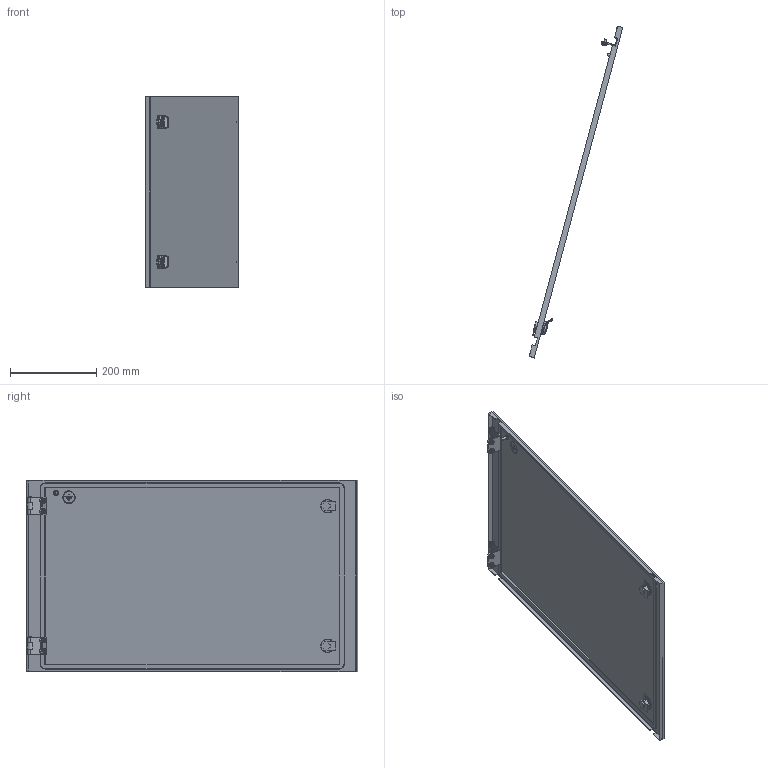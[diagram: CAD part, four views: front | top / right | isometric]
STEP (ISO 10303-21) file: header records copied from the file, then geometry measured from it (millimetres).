
FILE_DESCRIPTION (( 'STEP AP214' ), '1' );
FILE_NAME ('FO-00-ESD-045-080 Äâåðü ñåêöèîííàÿ âíåøíÿÿ 450õ800 ìì.STEP', '2025-08-20T06:31:01', ( '' ), ( '' ), 'SwSTEP 2.0', 'SolidWorks 2023', '' );
FILE_SCHEMA (( 'AUTOMOTIVE_DESIGN' ));
Length unit declared in the file: millimetre
Products named in the file (4): FO-00-ESD-045-080 Дверь секционная внешняя 450х800 мм; Дверь секционная внешняя 450х800 мм.STEP; FO-00-ESD-045-080 Дверь секционная внешняя 450х800 мм.STEP; Петля_10.STEP
Assembly tree (4 placements, depth 3):
  FO-00-ESD-045-080 Дверь секционная внешняя 450х800 мм
    FO-00-ESD-045-080 Дверь секционная внешняя 450х800 мм.STEP
      Дверь секционная внешняя 450х800 мм.STEP
      Петля_10.STEP  x2
Bounding box: 217.64 x 771.19 x 446 mm (x, y, z)
Volume: 894183.6 mm3; surface area: 805404.9 mm2
Topology: 3 solids, 12 shells, 707 faces, 1809 edges, 1168 vertices
Faces by surface type: plane 343, cylinder 268, torus 34, cone 32, bspline 30
Entity records: 20694 total; most frequent: CARTESIAN_POINT 5778, ORIENTED_EDGE 3108, DIRECTION 3078, EDGE_CURVE 1554, AXIS2_PLACEMENT_3D 1056, VERTEX_POINT 1006, VECTOR 966, LINE 966
